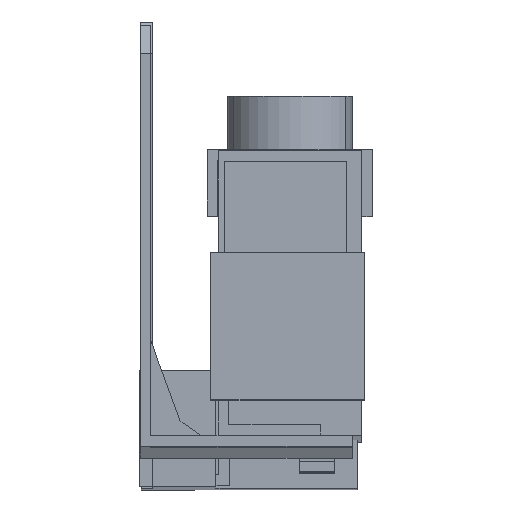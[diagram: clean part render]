
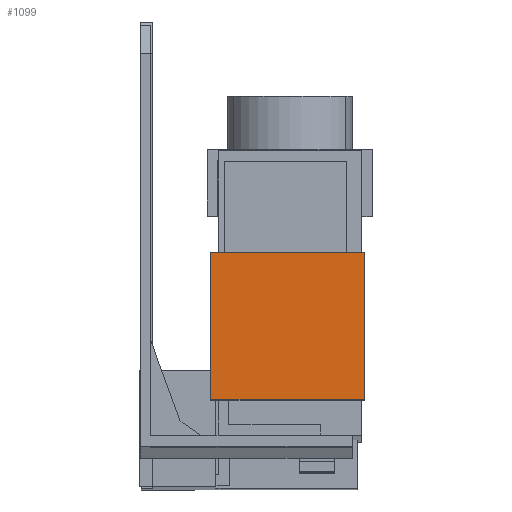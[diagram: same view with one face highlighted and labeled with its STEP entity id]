
A CAD part, front view. The second image highlights one B-rep face of the part: STEP entity #1099.
In plain terms, the highlighted planar face has unit normal (0, -1, 0.003).
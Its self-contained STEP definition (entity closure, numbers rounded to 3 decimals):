
#555 = EDGE_CURVE ( 'NONE', #2065, #2066, #2655, .T. ) ;
#729 = EDGE_CURVE ( 'NONE', #2069, #2070, #2885, .T. ) ;
#1099 = ADVANCED_FACE ( 'NONE', ( #3399 ), #3981, .T. ) ;
#1284 = EDGE_CURVE ( 'NONE', #2066, #2070, #3651, .T. ) ;
#1392 = EDGE_CURVE ( 'NONE', #2069, #2065, #5049, .T. ) ;
#1452 = AXIS2_PLACEMENT_3D ( 'NONE', #3988, #3992, #3993 ) ;
#2065 = VERTEX_POINT ( 'NONE', #4845 ) ;
#2066 = VERTEX_POINT ( 'NONE', #4846 ) ;
#2069 = VERTEX_POINT ( 'NONE', #4849 ) ;
#2070 = VERTEX_POINT ( 'NONE', #4850 ) ;
#2155 = CARTESIAN_POINT ( 'NONE',  ( 9.3, -31.452, -19.316 ) ) ;
#2159 = DIRECTION ( 'NONE',  ( 1., 0., 0. ) ) ;
#2546 = EDGE_LOOP ( 'NONE', ( #5794, #5793, #5792, #5791 ) ) ;
#2655 = LINE ( 'NONE', #2155, #2671 ) ;
#2671 = VECTOR ( 'NONE', #2159, 1000. ) ;
#2885 = LINE ( 'NONE', #5546, #2891 ) ;
#2891 = VECTOR ( 'NONE', #5601, 1000. ) ;
#3399 = FACE_OUTER_BOUND ( 'NONE', #2546, .T. ) ;
#3651 = LINE ( 'NONE', #4426, #3661 ) ;
#3661 = VECTOR ( 'NONE', #4446, 1000. ) ;
#3981 = PLANE ( 'NONE',  #1452 ) ;
#3988 = CARTESIAN_POINT ( 'NONE',  ( 9.3, -31.509, -40.315 ) ) ;
#3992 = DIRECTION ( 'NONE',  ( 0., -1., 0.003 ) ) ;
#3993 = DIRECTION ( 'NONE',  ( -1., 0., 0. ) ) ;
#4426 = CARTESIAN_POINT ( 'NONE',  ( 31.95, -31.452, -19.316 ) ) ;
#4446 = DIRECTION ( 'NONE',  ( 0., -0.003, -1. ) ) ;
#4631 = CARTESIAN_POINT ( 'NONE',  ( 10.05, -31.509, -40.315 ) ) ;
#4632 = DIRECTION ( 'NONE',  ( 0., 0.003, 1. ) ) ;
#4845 = CARTESIAN_POINT ( 'NONE',  ( 10.05, -31.452, -19.316 ) ) ;
#4846 = CARTESIAN_POINT ( 'NONE',  ( 31.95, -31.452, -19.316 ) ) ;
#4849 = CARTESIAN_POINT ( 'NONE',  ( 10.05, -31.509, -40.315 ) ) ;
#4850 = CARTESIAN_POINT ( 'NONE',  ( 31.95, -31.509, -40.315 ) ) ;
#5049 = LINE ( 'NONE', #4631, #5050 ) ;
#5050 = VECTOR ( 'NONE', #4632, 1000. ) ;
#5546 = CARTESIAN_POINT ( 'NONE',  ( 9.3, -31.509, -40.315 ) ) ;
#5601 = DIRECTION ( 'NONE',  ( 1., 0., 0. ) ) ;
#5791 = ORIENTED_EDGE ( 'NONE', *, *, #1284, .F. ) ;
#5792 = ORIENTED_EDGE ( 'NONE', *, *, #729, .T. ) ;
#5793 = ORIENTED_EDGE ( 'NONE', *, *, #1392, .F. ) ;
#5794 = ORIENTED_EDGE ( 'NONE', *, *, #555, .F. ) ;
